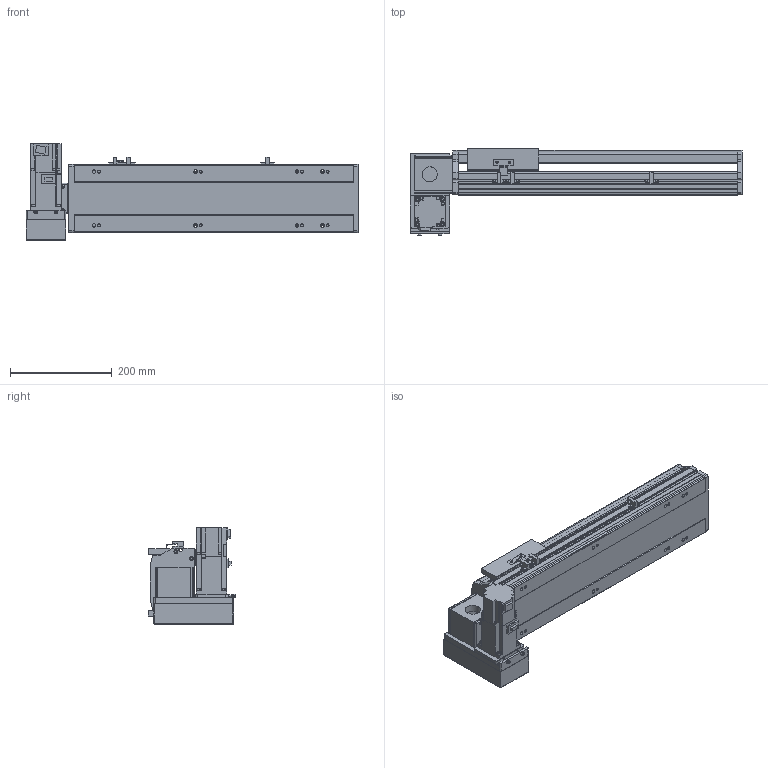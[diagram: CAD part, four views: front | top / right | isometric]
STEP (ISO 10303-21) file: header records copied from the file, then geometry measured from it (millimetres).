
FILE_DESCRIPTION( ( 'STEP AP214' ), '1' );
FILE_NAME( 'x:/temp/worker_6/temp/exporttempdir_5396_85_kilQG/format_0/PBS140S-P40-S300-LD-T40-C1-N(0).stp', '2022-06-09T00:23:49', ( 'License CC BY-ND 4.0' ), ( 'CADENAS' ), ' ', 'PARTsolutions', ' ' );
FILE_SCHEMA( ( 'AUTOMOTIVE_DESIGN { 1 0 10303 214 1 1 1 1 }' ) );
Length unit declared in the file: millimetre
Products named in the file (7): PBS140S-P40-S300-LD-T40-C1-N(0); _PBS140S-S300()_body; _PBS140ST-LD_motors; _T40-p1; _PBS140S_sliser; _PBS140S_plant; _PBS140S_sensor
Assembly tree (8 placements, depth 2):
  PBS140S-P40-S300-LD-T40-C1-N(0)
    _PBS140S-S300()_body
    _PBS140ST-LD_motors
    _T40-p1
    _PBS140S_sliser
    _PBS140S_plant
    _PBS140S_sensor  x3
Bounding box: 654 x 172.5 x 189.7 mm (x, y, z)
Volume: 3850337.1 mm3; surface area: 698104.9 mm2
Topology: 8 solids, 8 shells, 1035 faces, 2751 edges, 1801 vertices
Faces by surface type: plane 678, cylinder 313, cone 34, sphere 8, torus 2
Full cylindrical faces by diameter (mm): 3.242 x4, 4 x2, 4.134 x4, 4.4 x8, 4.5 x2, 4.8 x4, 4.917 x16, 5.5 x7, 6 x2, 7 x10, 7.5 x8, 8 x12, 8.5 x4, 10.5 x8, 14 x1, 30 x2, 50 x2
Entity records: 37768 total; most frequent: CARTESIAN_POINT 5734, DIRECTION 5068, ORIENTED_EDGE 4822, EDGE_CURVE 2411, AXIS2_PLACEMENT_3D 1739, VERTEX_POINT 1657, LINE 1590, VECTOR 1590
